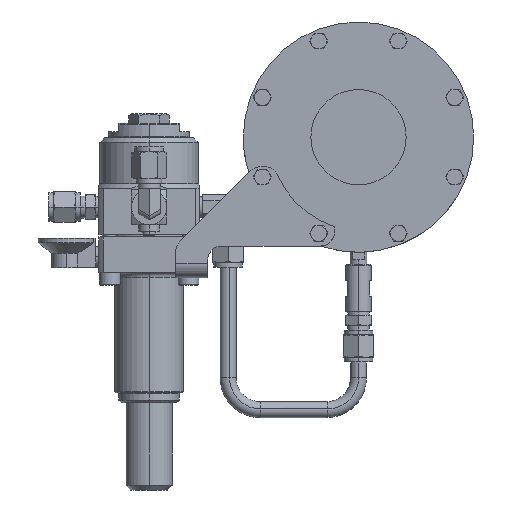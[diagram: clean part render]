
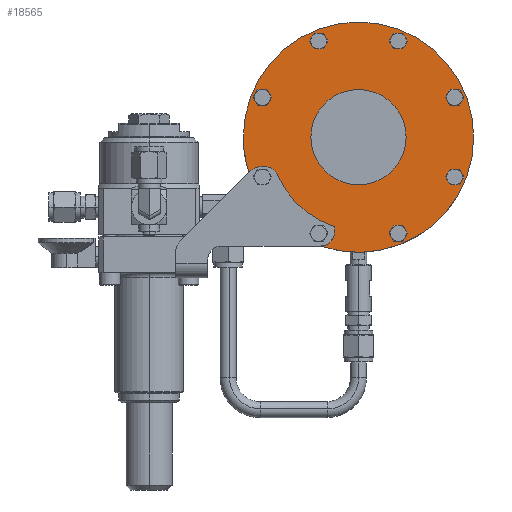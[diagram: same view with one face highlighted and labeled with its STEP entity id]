
A CAD part, left-side view. The second image highlights one B-rep face of the part: STEP entity #18565.
In plain terms, the highlighted planar face has unit normal (-1, 0, 0).
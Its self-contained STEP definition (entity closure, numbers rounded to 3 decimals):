
#5750=DIRECTION('',(0.,0.,-1.));
#5751=VECTOR('',#5750,2.404);
#5752=CARTESIAN_POINT('',(-9.,15.066,-57.11));
#5753=LINE('',#5752,#5751);
#5754=CARTESIAN_POINT('',(-9.,16.066,-57.11));
#5755=DIRECTION('',(-1.,0.,0.));
#5756=DIRECTION('',(0.,-1.,0.));
#5757=AXIS2_PLACEMENT_3D('',#5754,#5755,#5756);
#5759=CARTESIAN_POINT('',(-9.,-2.934,-0.514));
#5760=DIRECTION('',(1.,0.,0.));
#5761=DIRECTION('',(0.,0.318,-0.948));
#5762=AXIS2_PLACEMENT_3D('',#5759,#5760,#5761);
#5764=CARTESIAN_POINT('',(-9.,59.149,-27.514));
#5765=DIRECTION('',(1.,0.,0.));
#5766=DIRECTION('',(0.,0.,1.));
#5767=AXIS2_PLACEMENT_3D('',#5764,#5765,#5766);
#5769=DIRECTION('',(0.,1.,0.));
#5770=VECTOR('',#5769,2.189);
#5771=CARTESIAN_POINT('',(-9.,59.149,-18.514));
#5772=LINE('',#5771,#5770);
#5773=CARTESIAN_POINT('',(-9.,61.338,-27.514));
#5774=DIRECTION('',(-1.,0.,0.));
#5775=DIRECTION('',(0.,0.,1.));
#5776=AXIS2_PLACEMENT_3D('',#5773,#5774,#5775);
#5778=DIRECTION('',(0.,-0.707,0.707));
#5779=VECTOR('',#5778,1.769);
#5780=CARTESIAN_POINT('',(-9.,68.953,-22.401));
#5781=LINE('',#5780,#5779);
#5782=CARTESIAN_POINT('',(-9.,0.,0.));
#5783=DIRECTION('',(-1.,0.,0.));
#5784=DIRECTION('',(0.,1.,0.));
#5785=AXIS2_PLACEMENT_3D('',#5782,#5783,#5784);
#5787=CARTESIAN_POINT('',(-9.,0.,0.));
#5788=DIRECTION('',(1.,0.,0.));
#5789=DIRECTION('',(0.,1.,0.));
#5790=AXIS2_PLACEMENT_3D('',#5787,#5788,#5789);
#5792=CARTESIAN_POINT('',(-9.,0.,0.));
#5793=DIRECTION('',(-1.,0.,0.));
#5794=DIRECTION('',(0.,0.327,-0.945));
#5795=AXIS2_PLACEMENT_3D('',#5792,#5793,#5794);
#5797=CARTESIAN_POINT('',(-9.,24.066,-59.514));
#5798=DIRECTION('',(1.,0.,0.));
#5799=DIRECTION('',(0.,-1.,0.));
#5800=AXIS2_PLACEMENT_3D('',#5797,#5798,#5799);
#5802=CARTESIAN_POINT('',(-9.,0.,0.));
#5803=DIRECTION('',(1.,0.,0.));
#5804=DIRECTION('',(0.,-1.,0.));
#5805=AXIS2_PLACEMENT_3D('',#5802,#5803,#5804);
#5807=CARTESIAN_POINT('',(-9.,0.,0.));
#5808=DIRECTION('',(1.,0.,0.));
#5809=DIRECTION('',(0.,1.,0.));
#5810=AXIS2_PLACEMENT_3D('',#5807,#5808,#5809);
#5812=CARTESIAN_POINT('',(-9.,60.514,25.066));
#5813=DIRECTION('',(-1.,0.,0.));
#5814=DIRECTION('',(0.,0.,-1.));
#5815=AXIS2_PLACEMENT_3D('',#5812,#5813,#5814);
#5817=CARTESIAN_POINT('',(-9.,60.514,25.066));
#5818=DIRECTION('',(-1.,0.,0.));
#5819=DIRECTION('',(0.,0.,1.));
#5820=AXIS2_PLACEMENT_3D('',#5817,#5818,#5819);
#5822=CARTESIAN_POINT('',(-9.,25.066,60.514));
#5823=DIRECTION('',(-1.,0.,0.));
#5824=DIRECTION('',(0.,0.,-1.));
#5825=AXIS2_PLACEMENT_3D('',#5822,#5823,#5824);
#5827=CARTESIAN_POINT('',(-9.,25.066,60.514));
#5828=DIRECTION('',(-1.,0.,0.));
#5829=DIRECTION('',(0.,0.,1.));
#5830=AXIS2_PLACEMENT_3D('',#5827,#5828,#5829);
#5832=CARTESIAN_POINT('',(-9.,-25.066,60.514));
#5833=DIRECTION('',(-1.,0.,0.));
#5834=DIRECTION('',(0.,0.,-1.));
#5835=AXIS2_PLACEMENT_3D('',#5832,#5833,#5834);
#5837=CARTESIAN_POINT('',(-9.,-25.066,60.514));
#5838=DIRECTION('',(-1.,0.,0.));
#5839=DIRECTION('',(0.,0.,1.));
#5840=AXIS2_PLACEMENT_3D('',#5837,#5838,#5839);
#5842=CARTESIAN_POINT('',(-9.,-60.514,25.066));
#5843=DIRECTION('',(-1.,0.,0.));
#5844=DIRECTION('',(0.,0.,-1.));
#5845=AXIS2_PLACEMENT_3D('',#5842,#5843,#5844);
#5847=CARTESIAN_POINT('',(-9.,-60.514,25.066));
#5848=DIRECTION('',(-1.,0.,0.));
#5849=DIRECTION('',(0.,0.,1.));
#5850=AXIS2_PLACEMENT_3D('',#5847,#5848,#5849);
#5852=CARTESIAN_POINT('',(-9.,-60.514,-25.066));
#5853=DIRECTION('',(-1.,0.,0.));
#5854=DIRECTION('',(0.,0.,-1.));
#5855=AXIS2_PLACEMENT_3D('',#5852,#5853,#5854);
#5857=CARTESIAN_POINT('',(-9.,-60.514,-25.066));
#5858=DIRECTION('',(-1.,0.,0.));
#5859=DIRECTION('',(0.,0.,1.));
#5860=AXIS2_PLACEMENT_3D('',#5857,#5858,#5859);
#5862=CARTESIAN_POINT('',(-9.,-25.066,-60.514));
#5863=DIRECTION('',(-1.,0.,0.));
#5864=DIRECTION('',(0.,0.,-1.));
#5865=AXIS2_PLACEMENT_3D('',#5862,#5863,#5864);
#5867=CARTESIAN_POINT('',(-9.,-25.066,-60.514));
#5868=DIRECTION('',(-1.,0.,0.));
#5869=DIRECTION('',(0.,0.,1.));
#5870=AXIS2_PLACEMENT_3D('',#5867,#5868,#5869);
#11616=CARTESIAN_POINT('',(-9.,72.5,0.));
#11618=VERTEX_POINT('',#11616);
#11620=CARTESIAN_POINT('',(-9.,-72.5,0.));
#11622=VERTEX_POINT('',#11620);
#11627=CARTESIAN_POINT('',(-9.,-30.,0.));
#11628=VERTEX_POINT('',#11627);
#11629=CARTESIAN_POINT('',(-9.,30.,0.));
#11630=VERTEX_POINT('',#11629);
#11755=CARTESIAN_POINT('',(-9.,60.514,20.626));
#11756=CARTESIAN_POINT('',(-9.,60.514,29.506));
#11757=VERTEX_POINT('',#11755);
#11758=VERTEX_POINT('',#11756);
#11799=CARTESIAN_POINT('',(-9.,25.066,56.074));
#11800=CARTESIAN_POINT('',(-9.,25.066,64.954));
#11801=VERTEX_POINT('',#11799);
#11802=VERTEX_POINT('',#11800);
#11843=CARTESIAN_POINT('',(-9.,-25.066,56.074));
#11844=CARTESIAN_POINT('',(-9.,-25.066,64.954));
#11845=VERTEX_POINT('',#11843);
#11846=VERTEX_POINT('',#11844);
#11887=CARTESIAN_POINT('',(-9.,-60.514,20.626));
#11888=CARTESIAN_POINT('',(-9.,-60.514,29.506));
#11889=VERTEX_POINT('',#11887);
#11890=VERTEX_POINT('',#11888);
#11931=CARTESIAN_POINT('',(-9.,-60.514,-29.506));
#11932=CARTESIAN_POINT('',(-9.,-60.514,-20.626));
#11933=VERTEX_POINT('',#11931);
#11934=VERTEX_POINT('',#11932);
#11975=CARTESIAN_POINT('',(-9.,-25.066,-64.954));
#11976=CARTESIAN_POINT('',(-9.,-25.066,-56.074));
#11977=VERTEX_POINT('',#11975);
#11978=VERTEX_POINT('',#11976);
#12401=CARTESIAN_POINT('',(-9.,15.066,-57.11));
#12402=CARTESIAN_POINT('',(-9.,15.066,-59.514));
#12403=VERTEX_POINT('',#12401);
#12404=VERTEX_POINT('',#12402);
#12405=CARTESIAN_POINT('',(-9.,59.149,-18.514));
#12406=CARTESIAN_POINT('',(-9.,61.338,-18.514));
#12407=VERTEX_POINT('',#12405);
#12408=VERTEX_POINT('',#12406);
#12409=CARTESIAN_POINT('',(-9.,23.726,-68.508));
#12410=VERTEX_POINT('',#12409);
#12411=CARTESIAN_POINT('',(-9.,68.953,-22.401));
#12412=CARTESIAN_POINT('',(-9.,67.702,-21.15));
#12413=VERTEX_POINT('',#12411);
#12414=VERTEX_POINT('',#12412);
#12415=CARTESIAN_POINT('',(-9.,15.748,-56.162));
#12416=CARTESIAN_POINT('',(-9.,50.895,-23.925));
#12417=VERTEX_POINT('',#12415);
#12418=VERTEX_POINT('',#12416);
#18497=CARTESIAN_POINT('',(-9.,0.,0.));
#18498=DIRECTION('',(1.,0.,0.));
#18499=DIRECTION('',(0.,-1.,0.));
#18500=AXIS2_PLACEMENT_3D('',#18497,#18498,#18499);
#18501=PLANE('',#18500);
#18503=ORIENTED_EDGE('',*,*,#18502,.F.);
#18505=ORIENTED_EDGE('',*,*,#18504,.T.);
#18507=ORIENTED_EDGE('',*,*,#18506,.T.);
#18509=ORIENTED_EDGE('',*,*,#18508,.F.);
#18511=ORIENTED_EDGE('',*,*,#18510,.T.);
#18513=ORIENTED_EDGE('',*,*,#18512,.T.);
#18514=ORIENTED_EDGE('',*,*,#18485,.F.);
#18515=ORIENTED_EDGE('',*,*,#18450,.F.);
#18517=ORIENTED_EDGE('',*,*,#18516,.T.);
#18518=ORIENTED_EDGE('',*,*,#18443,.F.);
#18520=ORIENTED_EDGE('',*,*,#18519,.F.);
#18521=EDGE_LOOP('',(#18503,#18505,#18507,#18509,#18511,#18513,#18514,#18515,
#18517,#18518,#18520));
#18522=FACE_OUTER_BOUND('',#18521,.F.);
#18524=ORIENTED_EDGE('',*,*,#18523,.F.);
#18526=ORIENTED_EDGE('',*,*,#18525,.F.);
#18527=EDGE_LOOP('',(#18524,#18526));
#18528=FACE_BOUND('',#18527,.F.);
#18530=ORIENTED_EDGE('',*,*,#18529,.T.);
#18532=ORIENTED_EDGE('',*,*,#18531,.T.);
#18533=EDGE_LOOP('',(#18530,#18532));
#18534=FACE_BOUND('',#18533,.F.);
#18536=ORIENTED_EDGE('',*,*,#18535,.T.);
#18538=ORIENTED_EDGE('',*,*,#18537,.T.);
#18539=EDGE_LOOP('',(#18536,#18538));
#18540=FACE_BOUND('',#18539,.F.);
#18542=ORIENTED_EDGE('',*,*,#18541,.T.);
#18544=ORIENTED_EDGE('',*,*,#18543,.T.);
#18545=EDGE_LOOP('',(#18542,#18544));
#18546=FACE_BOUND('',#18545,.F.);
#18548=ORIENTED_EDGE('',*,*,#18547,.T.);
#18550=ORIENTED_EDGE('',*,*,#18549,.T.);
#18551=EDGE_LOOP('',(#18548,#18550));
#18552=FACE_BOUND('',#18551,.F.);
#18554=ORIENTED_EDGE('',*,*,#18553,.T.);
#18556=ORIENTED_EDGE('',*,*,#18555,.T.);
#18557=EDGE_LOOP('',(#18554,#18556));
#18558=FACE_BOUND('',#18557,.F.);
#18560=ORIENTED_EDGE('',*,*,#18559,.T.);
#18562=ORIENTED_EDGE('',*,*,#18561,.T.);
#18563=EDGE_LOOP('',(#18560,#18562));
#18564=FACE_BOUND('',#18563,.F.);
#18565=ADVANCED_FACE('',(#18522,#18528,#18534,#18540,#18546,#18552,#18558,
#18564),#18501,.F.);
#5758=CIRCLE('',#5757,1.);
#5763=CIRCLE('',#5762,58.7);
#5768=CIRCLE('',#5767,9.);
#5777=CIRCLE('',#5776,9.);
#5786=CIRCLE('',#5785,72.5);
#5791=CIRCLE('',#5790,72.5);
#5796=CIRCLE('',#5795,72.5);
#5801=CIRCLE('',#5800,9.);
#5806=CIRCLE('',#5805,30.);
#5811=CIRCLE('',#5810,30.);
#5816=CIRCLE('',#5815,4.44);
#5821=CIRCLE('',#5820,4.44);
#5826=CIRCLE('',#5825,4.44);
#5831=CIRCLE('',#5830,4.44);
#5836=CIRCLE('',#5835,4.44);
#5841=CIRCLE('',#5840,4.44);
#5846=CIRCLE('',#5845,4.44);
#5851=CIRCLE('',#5850,4.44);
#5856=CIRCLE('',#5855,4.44);
#5861=CIRCLE('',#5860,4.44);
#5866=CIRCLE('',#5865,4.44);
#5871=CIRCLE('',#5870,4.44);
#18443=EDGE_CURVE('',#12410,#11622,#5796,.T.);
#18450=EDGE_CURVE('',#11618,#12413,#5786,.T.);
#18485=EDGE_CURVE('',#12413,#12414,#5781,.T.);
#18502=EDGE_CURVE('',#12403,#12404,#5753,.T.);
#18504=EDGE_CURVE('',#12403,#12417,#5758,.T.);
#18506=EDGE_CURVE('',#12417,#12418,#5763,.T.);
#18508=EDGE_CURVE('',#12407,#12418,#5768,.T.);
#18510=EDGE_CURVE('',#12407,#12408,#5772,.T.);
#18512=EDGE_CURVE('',#12408,#12414,#5777,.T.);
#18516=EDGE_CURVE('',#11618,#11622,#5791,.T.);
#18519=EDGE_CURVE('',#12404,#12410,#5801,.T.);
#18523=EDGE_CURVE('',#11628,#11630,#5806,.T.);
#18525=EDGE_CURVE('',#11630,#11628,#5811,.T.);
#18529=EDGE_CURVE('',#11757,#11758,#5816,.T.);
#18531=EDGE_CURVE('',#11758,#11757,#5821,.T.);
#18535=EDGE_CURVE('',#11801,#11802,#5826,.T.);
#18537=EDGE_CURVE('',#11802,#11801,#5831,.T.);
#18541=EDGE_CURVE('',#11845,#11846,#5836,.T.);
#18543=EDGE_CURVE('',#11846,#11845,#5841,.T.);
#18547=EDGE_CURVE('',#11889,#11890,#5846,.T.);
#18549=EDGE_CURVE('',#11890,#11889,#5851,.T.);
#18553=EDGE_CURVE('',#11933,#11934,#5856,.T.);
#18555=EDGE_CURVE('',#11934,#11933,#5861,.T.);
#18559=EDGE_CURVE('',#11977,#11978,#5866,.T.);
#18561=EDGE_CURVE('',#11978,#11977,#5871,.T.);
